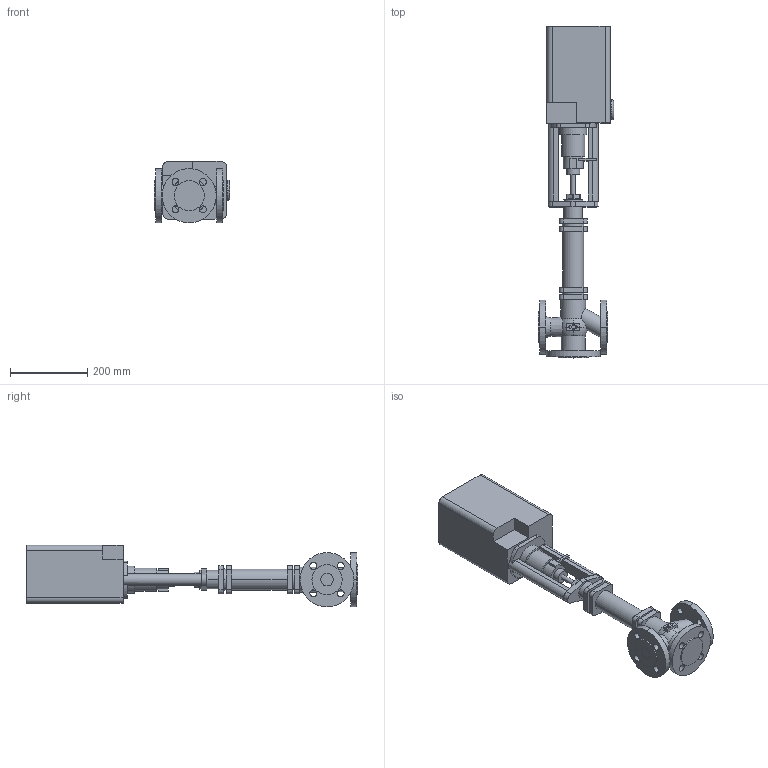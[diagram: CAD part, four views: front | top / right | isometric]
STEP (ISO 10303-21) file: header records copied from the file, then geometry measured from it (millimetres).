
FILE_DESCRIPTION(('OneSpaceDesigner STEP Export'),'2;1');
FILE_NAME('c000002444.stp','2006-09-21T11:47:14',(''),(''),'OneSpace Designer STEP processor for AP214 (Solid Model)','OneSpace Designer 13.20A 18-Aug-2005 (C) CoCreate Software GmbH','');
FILE_SCHEMA(('AUTOMOTIVE_DESIGN { 1 0 10303 214 1 1 1 1 }'));
Length unit declared in the file: millimetre
Products named in the file (2): 1; 2
Bounding box: 194.6 x 859 x 159 mm (x, y, z)
Volume: 8892651.8 mm3; surface area: 507953.7 mm2
Topology: 2 solids, 2 shells, 236 faces, 604 edges, 401 vertices
Faces by surface type: plane 113, cylinder 110, torus 9, cone 4
Entity records: 6841 total; most frequent: CARTESIAN_POINT 1326, ORIENTED_EDGE 1208, DIRECTION 1053, EDGE_CURVE 604, VERTEX_POINT 401, AXIS2_PLACEMENT_3D 366, VECTOR 321, LINE 321
